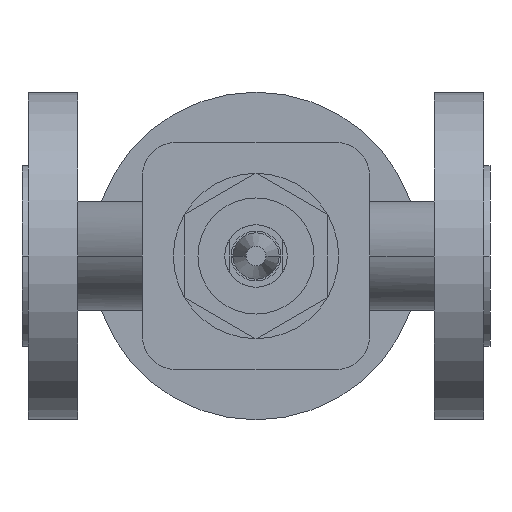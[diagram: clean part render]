
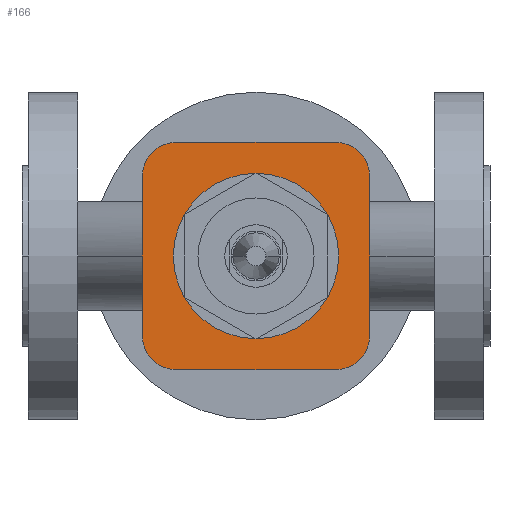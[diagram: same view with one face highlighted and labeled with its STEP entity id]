
A CAD part, front view. The second image highlights one B-rep face of the part: STEP entity #166.
In plain terms, the highlighted planar face has unit normal (0, -1, 0).
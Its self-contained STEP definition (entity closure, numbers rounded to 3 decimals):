
#166 = ADVANCED_FACE( '', ( #418, #419 ), #420, .T. );
#418 = FACE_OUTER_BOUND( '', #736, .T. );
#419 = FACE_BOUND( '', #737, .T. );
#420 = PLANE( '', #738 );
#736 = EDGE_LOOP( '', ( #1547, #1548, #1549, #1550, #1551, #1552, #1553, #1554 ) );
#737 = EDGE_LOOP( '', ( #1555, #1556 ) );
#738 = AXIS2_PLACEMENT_3D( '', #1557, #1558, #1559 );
#1547 = ORIENTED_EDGE( '', *, *, #2175, .T. );
#1548 = ORIENTED_EDGE( '', *, *, #2167, .T. );
#1549 = ORIENTED_EDGE( '', *, *, #2158, .T. );
#1550 = ORIENTED_EDGE( '', *, *, #2149, .T. );
#1551 = ORIENTED_EDGE( '', *, *, #2143, .T. );
#1552 = ORIENTED_EDGE( '', *, *, #2184, .T. );
#1553 = ORIENTED_EDGE( '', *, *, #2181, .T. );
#1554 = ORIENTED_EDGE( '', *, *, #2178, .T. );
#1555 = ORIENTED_EDGE( '', *, *, #1999, .F. );
#1556 = ORIENTED_EDGE( '', *, *, #2187, .F. );
#1557 = CARTESIAN_POINT( '', ( 37.75, -70., 0. ) );
#1558 = DIRECTION( '', ( 0., -1., 0. ) );
#1559 = DIRECTION( '', ( -1., 0., 0. ) );
#1999 = EDGE_CURVE( '', #2403, #2406, #2407, .T. );
#2143 = EDGE_CURVE( '', #2645, #2643, #2646, .T. );
#2149 = EDGE_CURVE( '', #2655, #2645, #2656, .T. );
#2158 = EDGE_CURVE( '', #2670, #2655, #2671, .T. );
#2167 = EDGE_CURVE( '', #2685, #2670, #2686, .T. );
#2175 = EDGE_CURVE( '', #2697, #2685, #2698, .T. );
#2178 = EDGE_CURVE( '', #2702, #2697, #2703, .T. );
#2181 = EDGE_CURVE( '', #2707, #2702, #2708, .T. );
#2184 = EDGE_CURVE( '', #2643, #2707, #2711, .T. );
#2187 = EDGE_CURVE( '', #2406, #2403, #2714, .T. );
#2403 = VERTEX_POINT( '', #3165 );
#2406 = VERTEX_POINT( '', #3169 );
#2407 = CIRCLE( '', #3170, 26.5 );
#2643 = VERTEX_POINT( '', #3522 );
#2645 = VERTEX_POINT( '', #3525 );
#2646 = LINE( '', #3526, #3527 );
#2655 = VERTEX_POINT( '', #3538 );
#2656 = CIRCLE( '', #3539, 11. );
#2670 = VERTEX_POINT( '', #3559 );
#2671 = LINE( '', #3560, #3561 );
#2685 = VERTEX_POINT( '', #3580 );
#2686 = CIRCLE( '', #3581, 11. );
#2697 = VERTEX_POINT( '', #3597 );
#2698 = LINE( '', #3598, #3599 );
#2702 = VERTEX_POINT( '', #3604 );
#2703 = CIRCLE( '', #3605, 11. );
#2707 = VERTEX_POINT( '', #3611 );
#2708 = LINE( '', #3612, #3613 );
#2711 = CIRCLE( '', #3617, 11. );
#2714 = CIRCLE( '', #3620, 26.5 );
#3165 = CARTESIAN_POINT( '', ( 48.5, -70., 0. ) );
#3169 = CARTESIAN_POINT( '', ( 101.5, -70., 0. ) );
#3170 = AXIS2_PLACEMENT_3D( '', #3987, #3988, #3989 );
#3522 = CARTESIAN_POINT( '', ( 111.456, -70., 25.456 ) );
#3525 = CARTESIAN_POINT( '', ( 111.456, -70., -25.456 ) );
#3526 = CARTESIAN_POINT( '', ( 111.456, -70., 12.728 ) );
#3527 = VECTOR( '', #4282, 1. );
#3538 = CARTESIAN_POINT( '', ( 100.456, -70., -36.456 ) );
#3539 = AXIS2_PLACEMENT_3D( '', #4294, #4295, #4296 );
#3559 = CARTESIAN_POINT( '', ( 49.544, -70., -36.456 ) );
#3560 = CARTESIAN_POINT( '', ( 56.375, -70., -36.456 ) );
#3561 = VECTOR( '', #4309, 1. );
#3580 = CARTESIAN_POINT( '', ( 38.544, -70., -25.456 ) );
#3581 = AXIS2_PLACEMENT_3D( '', #4324, #4325, #4326 );
#3597 = CARTESIAN_POINT( '', ( 38.544, -70., 25.456 ) );
#3598 = CARTESIAN_POINT( '', ( 38.544, -70., -12.728 ) );
#3599 = VECTOR( '', #4338, 1. );
#3604 = CARTESIAN_POINT( '', ( 49.544, -70., 36.456 ) );
#3605 = AXIS2_PLACEMENT_3D( '', #4343, #4344, #4345 );
#3611 = CARTESIAN_POINT( '', ( 100.456, -70., 36.456 ) );
#3612 = CARTESIAN_POINT( '', ( 43.647, -70., 36.456 ) );
#3613 = VECTOR( '', #4348, 1. );
#3617 = AXIS2_PLACEMENT_3D( '', #4353, #4354, #4355 );
#3620 = AXIS2_PLACEMENT_3D( '', #4362, #4363, #4364 );
#3987 = CARTESIAN_POINT( '', ( 75., -70., 0. ) );
#3988 = DIRECTION( '', ( 0., -1., 0. ) );
#3989 = DIRECTION( '', ( -1., 0., 0. ) );
#4282 = DIRECTION( '', ( 0., 0., 1. ) );
#4294 = CARTESIAN_POINT( '', ( 100.456, -70., -25.456 ) );
#4295 = DIRECTION( '', ( 0., -1., 0. ) );
#4296 = DIRECTION( '', ( 1., 0., 0. ) );
#4309 = DIRECTION( '', ( 1., 0., 0. ) );
#4324 = CARTESIAN_POINT( '', ( 49.544, -70., -25.456 ) );
#4325 = DIRECTION( '', ( 0., -1., 0. ) );
#4326 = DIRECTION( '', ( 0., 0., -1. ) );
#4338 = DIRECTION( '', ( 0., 0., -1. ) );
#4343 = CARTESIAN_POINT( '', ( 49.544, -70., 25.456 ) );
#4344 = DIRECTION( '', ( 0., -1., 0. ) );
#4345 = DIRECTION( '', ( -1., 0., 0. ) );
#4348 = DIRECTION( '', ( -1., 0., 0. ) );
#4353 = CARTESIAN_POINT( '', ( 100.456, -70., 25.456 ) );
#4354 = DIRECTION( '', ( 0., -1., 0. ) );
#4355 = DIRECTION( '', ( 0., 0., 1. ) );
#4362 = CARTESIAN_POINT( '', ( 75., -70., 0. ) );
#4363 = DIRECTION( '', ( 0., -1., 0. ) );
#4364 = DIRECTION( '', ( -1., 0., 0. ) );
